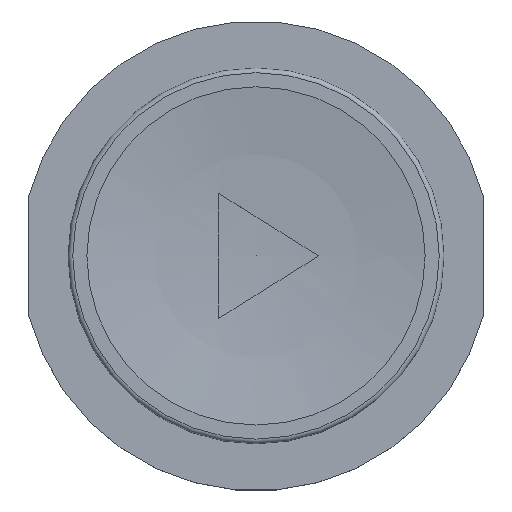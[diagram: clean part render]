
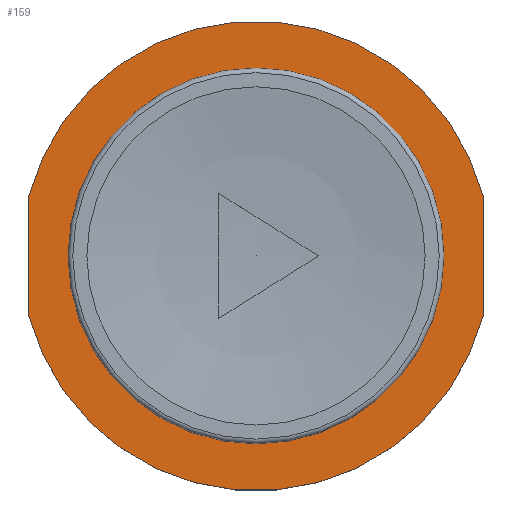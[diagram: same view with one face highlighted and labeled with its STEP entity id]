
A CAD part, top view. The second image highlights one B-rep face of the part: STEP entity #159.
In plain terms, the highlighted planar face has unit normal (0, 0, 1).
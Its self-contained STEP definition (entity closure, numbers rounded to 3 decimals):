
#22 = VERTEX_POINT('',#23);
#23 = CARTESIAN_POINT('',(48.,25.5,17.));
#32 = CYLINDRICAL_SURFACE('',#33,12.);
#33 = AXIS2_PLACEMENT_3D('',#34,#35,#36);
#34 = CARTESIAN_POINT('',(36.,25.5,17.));
#35 = DIRECTION('',(0.,0.,1.));
#36 = DIRECTION('',(1.,0.,0.));
#79 = EDGE_CURVE('',#22,#22,#80,.T.);
#80 = SURFACE_CURVE('',#81,(#86,#93),.PCURVE_S1.);
#81 = CIRCLE('',#82,12.);
#82 = AXIS2_PLACEMENT_3D('',#83,#84,#85);
#83 = CARTESIAN_POINT('',(36.,25.5,17.));
#84 = DIRECTION('',(0.,0.,1.));
#85 = DIRECTION('',(1.,0.,0.));
#86 = PCURVE('',#32,#87);
#87 = DEFINITIONAL_REPRESENTATION('',(#88),#92);
#88 = LINE('',#89,#90);
#89 = CARTESIAN_POINT('',(0.,0.));
#90 = VECTOR('',#91,1.);
#91 = DIRECTION('',(1.,0.));
#92 = ( GEOMETRIC_REPRESENTATION_CONTEXT(2) 
PARAMETRIC_REPRESENTATION_CONTEXT() REPRESENTATION_CONTEXT('2D SPACE',''
  ) );
#93 = PCURVE('',#94,#99);
#94 = PLANE('',#95);
#95 = AXIS2_PLACEMENT_3D('',#96,#97,#98);
#96 = CARTESIAN_POINT('',(36.,25.5,17.));
#97 = DIRECTION('',(0.,0.,1.));
#98 = DIRECTION('',(1.,0.,0.));
#99 = DEFINITIONAL_REPRESENTATION('',(#100),#104);
#100 = CIRCLE('',#101,12.);
#101 = AXIS2_PLACEMENT_2D('',#102,#103);
#102 = CARTESIAN_POINT('',(0.,0.));
#103 = DIRECTION('',(1.,0.));
#104 = ( GEOMETRIC_REPRESENTATION_CONTEXT(2) 
PARAMETRIC_REPRESENTATION_CONTEXT() REPRESENTATION_CONTEXT('2D SPACE',''
  ) );
#159 = ADVANCED_FACE('',(#160,#272),#94,.T.);
#160 = FACE_BOUND('',#161,.T.);
#161 = EDGE_LOOP('',(#162,#190,#219,#245));
#162 = ORIENTED_EDGE('',*,*,#163,.F.);
#163 = EDGE_CURVE('',#164,#166,#168,.T.);
#164 = VERTEX_POINT('',#165);
#165 = CARTESIAN_POINT('',(21.5,21.659,17.));
#166 = VERTEX_POINT('',#167);
#167 = CARTESIAN_POINT('',(21.5,29.341,17.));
#168 = SURFACE_CURVE('',#169,(#173,#179),.PCURVE_S1.);
#169 = LINE('',#170,#171);
#170 = CARTESIAN_POINT('',(21.5,17.5,17.));
#171 = VECTOR('',#172,1.);
#172 = DIRECTION('',(0.,1.,0.));
#173 = PCURVE('',#94,#174);
#174 = DEFINITIONAL_REPRESENTATION('',(#175),#178);
#175 = B_SPLINE_CURVE_WITH_KNOTS('',1,(#176,#177),.UNSPECIFIED.,.F.,.F.,
  (2,2),(-7.,23.),.PIECEWISE_BEZIER_KNOTS.);
#176 = CARTESIAN_POINT('',(-14.5,-15.));
#177 = CARTESIAN_POINT('',(-14.5,15.));
#178 = ( GEOMETRIC_REPRESENTATION_CONTEXT(2) 
PARAMETRIC_REPRESENTATION_CONTEXT() REPRESENTATION_CONTEXT('2D SPACE',''
  ) );
#179 = PCURVE('',#180,#185);
#180 = PLANE('',#181);
#181 = AXIS2_PLACEMENT_3D('',#182,#183,#184);
#182 = CARTESIAN_POINT('',(21.5,9.5,15.39));
#183 = DIRECTION('',(1.,0.,0.));
#184 = DIRECTION('',(0.,0.,1.));
#185 = DEFINITIONAL_REPRESENTATION('',(#186),#189);
#186 = B_SPLINE_CURVE_WITH_KNOTS('',1,(#187,#188),.UNSPECIFIED.,.F.,.F.,
  (2,2),(-7.,23.),.PIECEWISE_BEZIER_KNOTS.);
#187 = CARTESIAN_POINT('',(1.61,-1.));
#188 = CARTESIAN_POINT('',(1.61,-31.));
#189 = ( GEOMETRIC_REPRESENTATION_CONTEXT(2) 
PARAMETRIC_REPRESENTATION_CONTEXT() REPRESENTATION_CONTEXT('2D SPACE',''
  ) );
#190 = ORIENTED_EDGE('',*,*,#191,.T.);
#191 = EDGE_CURVE('',#164,#192,#194,.T.);
#192 = VERTEX_POINT('',#193);
#193 = CARTESIAN_POINT('',(50.5,21.659,17.));
#194 = SURFACE_CURVE('',#195,(#200,#207),.PCURVE_S1.);
#195 = CIRCLE('',#196,15.);
#196 = AXIS2_PLACEMENT_3D('',#197,#198,#199);
#197 = CARTESIAN_POINT('',(36.,25.5,17.));
#198 = DIRECTION('',(0.,0.,1.));
#199 = DIRECTION('',(1.,0.,0.));
#200 = PCURVE('',#94,#201);
#201 = DEFINITIONAL_REPRESENTATION('',(#202),#206);
#202 = CIRCLE('',#203,15.);
#203 = AXIS2_PLACEMENT_2D('',#204,#205);
#204 = CARTESIAN_POINT('',(0.,0.));
#205 = DIRECTION('',(1.,0.));
#206 = ( GEOMETRIC_REPRESENTATION_CONTEXT(2) 
PARAMETRIC_REPRESENTATION_CONTEXT() REPRESENTATION_CONTEXT('2D SPACE',''
  ) );
#207 = PCURVE('',#208,#213);
#208 = CYLINDRICAL_SURFACE('',#209,15.);
#209 = AXIS2_PLACEMENT_3D('',#210,#211,#212);
#210 = CARTESIAN_POINT('',(36.,25.5,15.4));
#211 = DIRECTION('',(0.,0.,1.));
#212 = DIRECTION('',(1.,0.,0.));
#213 = DEFINITIONAL_REPRESENTATION('',(#214),#218);
#214 = LINE('',#215,#216);
#215 = CARTESIAN_POINT('',(0.,1.6));
#216 = VECTOR('',#217,1.);
#217 = DIRECTION('',(1.,0.));
#218 = ( GEOMETRIC_REPRESENTATION_CONTEXT(2) 
PARAMETRIC_REPRESENTATION_CONTEXT() REPRESENTATION_CONTEXT('2D SPACE',''
  ) );
#219 = ORIENTED_EDGE('',*,*,#220,.T.);
#220 = EDGE_CURVE('',#192,#221,#223,.T.);
#221 = VERTEX_POINT('',#222);
#222 = CARTESIAN_POINT('',(50.5,29.341,17.));
#223 = SURFACE_CURVE('',#224,(#228,#234),.PCURVE_S1.);
#224 = LINE('',#225,#226);
#225 = CARTESIAN_POINT('',(50.5,17.5,17.));
#226 = VECTOR('',#227,1.);
#227 = DIRECTION('',(0.,1.,0.));
#228 = PCURVE('',#94,#229);
#229 = DEFINITIONAL_REPRESENTATION('',(#230),#233);
#230 = B_SPLINE_CURVE_WITH_KNOTS('',1,(#231,#232),.UNSPECIFIED.,.F.,.F.,
  (2,2),(-7.,23.),.PIECEWISE_BEZIER_KNOTS.);
#231 = CARTESIAN_POINT('',(14.5,-15.));
#232 = CARTESIAN_POINT('',(14.5,15.));
#233 = ( GEOMETRIC_REPRESENTATION_CONTEXT(2) 
PARAMETRIC_REPRESENTATION_CONTEXT() REPRESENTATION_CONTEXT('2D SPACE',''
  ) );
#234 = PCURVE('',#235,#240);
#235 = PLANE('',#236);
#236 = AXIS2_PLACEMENT_3D('',#237,#238,#239);
#237 = CARTESIAN_POINT('',(50.5,9.5,15.39));
#238 = DIRECTION('',(1.,0.,0.));
#239 = DIRECTION('',(0.,0.,1.));
#240 = DEFINITIONAL_REPRESENTATION('',(#241),#244);
#241 = B_SPLINE_CURVE_WITH_KNOTS('',1,(#242,#243),.UNSPECIFIED.,.F.,.F.,
  (2,2),(-7.,23.),.PIECEWISE_BEZIER_KNOTS.);
#242 = CARTESIAN_POINT('',(1.61,-1.));
#243 = CARTESIAN_POINT('',(1.61,-31.));
#244 = ( GEOMETRIC_REPRESENTATION_CONTEXT(2) 
PARAMETRIC_REPRESENTATION_CONTEXT() REPRESENTATION_CONTEXT('2D SPACE',''
  ) );
#245 = ORIENTED_EDGE('',*,*,#246,.T.);
#246 = EDGE_CURVE('',#221,#166,#247,.T.);
#247 = SURFACE_CURVE('',#248,(#253,#260),.PCURVE_S1.);
#248 = CIRCLE('',#249,15.);
#249 = AXIS2_PLACEMENT_3D('',#250,#251,#252);
#250 = CARTESIAN_POINT('',(36.,25.5,17.));
#251 = DIRECTION('',(0.,0.,1.));
#252 = DIRECTION('',(1.,0.,0.));
#253 = PCURVE('',#94,#254);
#254 = DEFINITIONAL_REPRESENTATION('',(#255),#259);
#255 = CIRCLE('',#256,15.);
#256 = AXIS2_PLACEMENT_2D('',#257,#258);
#257 = CARTESIAN_POINT('',(0.,0.));
#258 = DIRECTION('',(1.,0.));
#259 = ( GEOMETRIC_REPRESENTATION_CONTEXT(2) 
PARAMETRIC_REPRESENTATION_CONTEXT() REPRESENTATION_CONTEXT('2D SPACE',''
  ) );
#260 = PCURVE('',#261,#266);
#261 = CYLINDRICAL_SURFACE('',#262,15.);
#262 = AXIS2_PLACEMENT_3D('',#263,#264,#265);
#263 = CARTESIAN_POINT('',(36.,25.5,15.4));
#264 = DIRECTION('',(0.,0.,1.));
#265 = DIRECTION('',(1.,0.,0.));
#266 = DEFINITIONAL_REPRESENTATION('',(#267),#271);
#267 = LINE('',#268,#269);
#268 = CARTESIAN_POINT('',(0.,1.6));
#269 = VECTOR('',#270,1.);
#270 = DIRECTION('',(1.,0.));
#271 = ( GEOMETRIC_REPRESENTATION_CONTEXT(2) 
PARAMETRIC_REPRESENTATION_CONTEXT() REPRESENTATION_CONTEXT('2D SPACE',''
  ) );
#272 = FACE_BOUND('',#273,.T.);
#273 = EDGE_LOOP('',(#274));
#274 = ORIENTED_EDGE('',*,*,#79,.F.);
